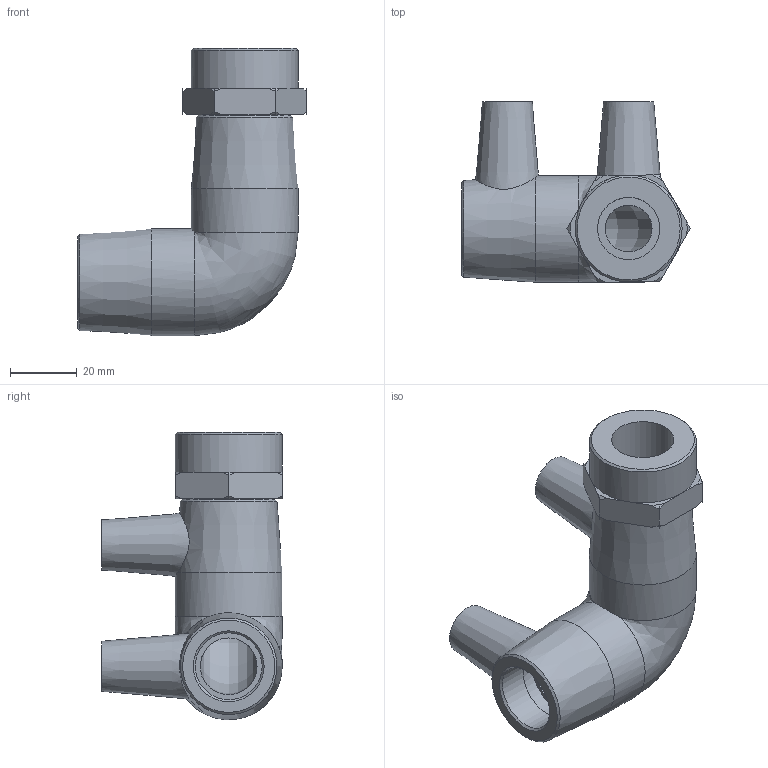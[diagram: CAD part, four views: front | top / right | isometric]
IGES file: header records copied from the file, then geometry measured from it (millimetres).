
Global section: file name: 493504020005.ipt; native system: Autodesk Inventor 2015; preprocessor: unknown; author: KIM; date: 20200202.123444; units: millimetre
Bounding box: 68.47 x 54.04 x 85.96 mm (x, y, z)
Volume: 71056.7 mm3; surface area: 23705.2 mm2
Topology: 2 solids, 2 shells, 78 faces, 193 edges, 126 vertices
Faces by surface type: plane 27, revolution 24, cone 19, cylinder 7, bspline 1
Full cylindrical faces by diameter (mm): 4 x2, 20 x2, 32 x3
